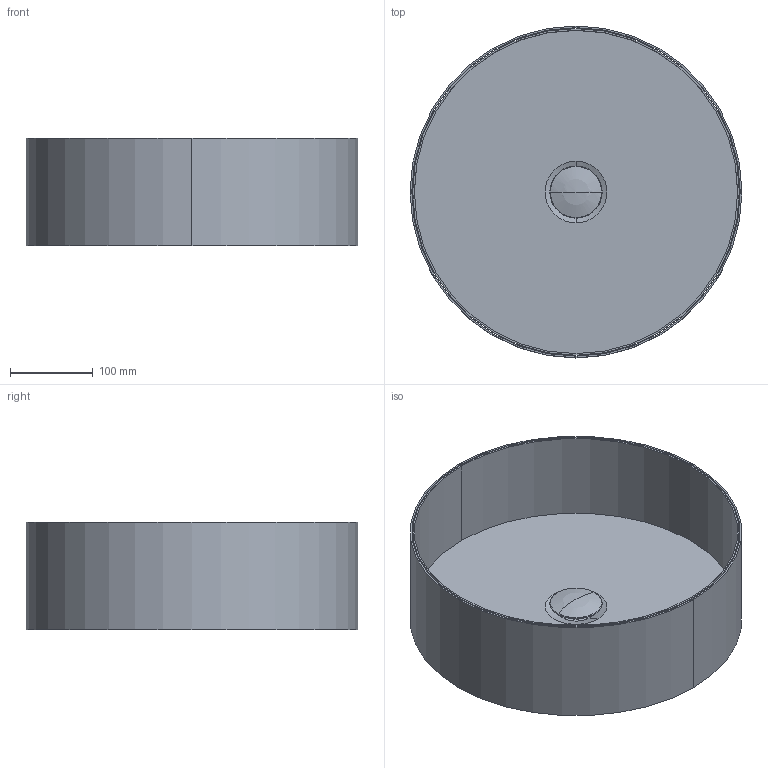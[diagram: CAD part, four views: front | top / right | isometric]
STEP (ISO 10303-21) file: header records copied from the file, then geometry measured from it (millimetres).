
FILE_DESCRIPTION((''),'2;1');
FILE_NAME('6933021_SW0001','2024-10-17T13:43:40',('carloff'),(''),'CREO PARAMETRIC BY PTC INC, 2022014','CREO PARAMETRIC BY PTC INC, 2022014','');
FILE_SCHEMA(('CONFIG_CONTROL_DESIGN'));
Length unit declared in the file: millimetre
Products named in the file (1): 6933021_SW0001
Bounding box: 400 x 400 x 130 mm (x, y, z)
Volume: 804863 mm3; surface area: 862887.3 mm2
Topology: 4 solids, 4 shells, 399 faces, 1067 edges, 705 vertices
Faces by surface type: plane 148, extrusion 102, cylinder 63, cone 46, torus 34, sphere 4, bspline 2
Entity records: 14302 total; most frequent: CARTESIAN_POINT 4594, ORIENTED_EDGE 2128, DIRECTION 1786, EDGE_CURVE 1064, VERTEX_POINT 705, AXIS2_PLACEMENT_3D 649, VECTOR 488, EDGE_LOOP 437
